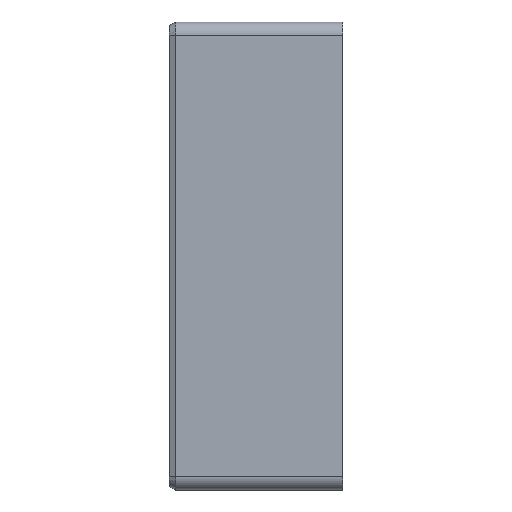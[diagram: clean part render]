
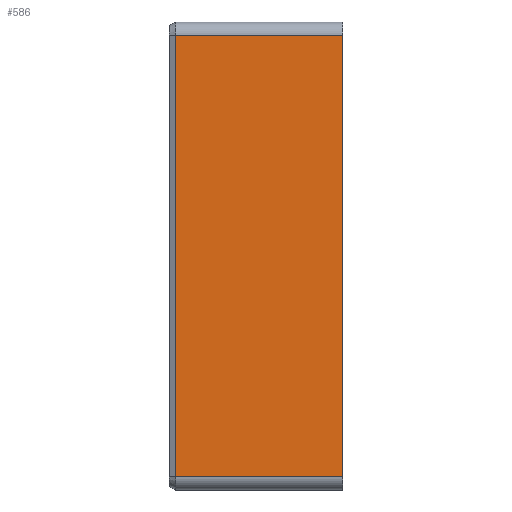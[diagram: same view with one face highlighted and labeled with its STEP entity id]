
A CAD part, left-side view. The second image highlights one B-rep face of the part: STEP entity #586.
In plain terms, the highlighted planar face has unit normal (-1, 0, 0).
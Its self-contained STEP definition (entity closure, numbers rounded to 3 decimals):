
#534=CARTESIAN_POINT('Vertex',(-35.75,0.,-66.)) ;
#537=CARTESIAN_POINT('Line Origine',(-35.75,26.,-66.)) ;
#541=CARTESIAN_POINT('Vertex',(-35.75,50.,-66.)) ;
#556=CARTESIAN_POINT('Axis2P3D Location',(-35.75,0.,66.)) ;
#561=CARTESIAN_POINT('Line Origine',(-35.75,50.,0.)) ;
#565=CARTESIAN_POINT('Vertex',(-35.75,50.,66.)) ;
#568=CARTESIAN_POINT('Line Origine',(-35.75,0.,0.)) ;
#572=CARTESIAN_POINT('Vertex',(-35.75,0.,66.)) ;
#575=CARTESIAN_POINT('Line Origine',(-35.75,25.,66.)) ;
#538=DIRECTION('Vector Direction',(0.,1.,0.)) ;
#557=DIRECTION('Axis2P3D Direction',(1.,0.,-0.)) ;
#558=DIRECTION('Axis2P3D XDirection',(-0.,0.,-1.)) ;
#562=DIRECTION('Vector Direction',(0.,0.,-1.)) ;
#569=DIRECTION('Vector Direction',(0.,0.,-1.)) ;
#576=DIRECTION('Vector Direction',(0.,1.,0.)) ;
#559=AXIS2_PLACEMENT_3D('Plane Axis2P3D',#556,#557,#558) ;
#581=ORIENTED_EDGE('',*,*,#567,.F.) ;
#582=ORIENTED_EDGE('',*,*,#543,.F.) ;
#583=ORIENTED_EDGE('',*,*,#574,.T.) ;
#584=ORIENTED_EDGE('',*,*,#579,.T.) ;
#539=VECTOR('Line Direction',#538,1.) ;
#563=VECTOR('Line Direction',#562,1.) ;
#570=VECTOR('Line Direction',#569,1.) ;
#577=VECTOR('Line Direction',#576,1.) ;
#586=ADVANCED_FACE('PartBody',(#585),#560,.F.) ;
#543=EDGE_CURVE('',#535,#542,#540,.T.) ;
#567=EDGE_CURVE('',#542,#566,#564,.F.) ;
#574=EDGE_CURVE('',#535,#573,#571,.F.) ;
#579=EDGE_CURVE('',#573,#566,#578,.T.) ;
#580=EDGE_LOOP('',(#581,#582,#583,#584)) ;
#585=FACE_OUTER_BOUND('',#580,.T.) ;
#540=LINE('Line',#537,#539) ;
#564=LINE('Line',#561,#563) ;
#571=LINE('Line',#568,#570) ;
#578=LINE('Line',#575,#577) ;
#560=PLANE('Plane',#559) ;
#535=VERTEX_POINT('',#534) ;
#542=VERTEX_POINT('',#541) ;
#566=VERTEX_POINT('',#565) ;
#573=VERTEX_POINT('',#572) ;
